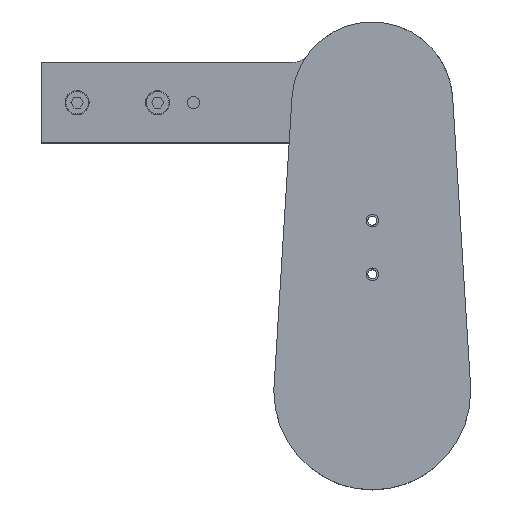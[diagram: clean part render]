
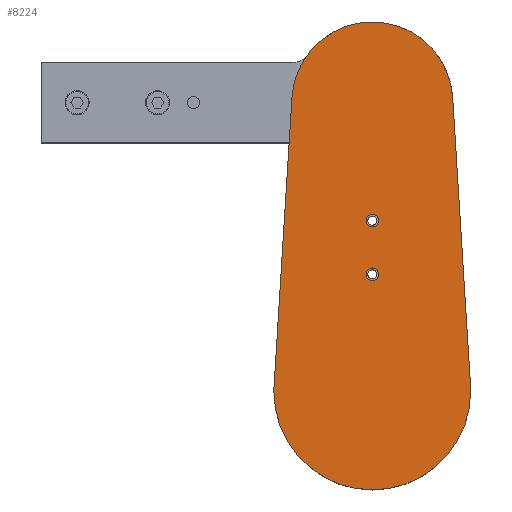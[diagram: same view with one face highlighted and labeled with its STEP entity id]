
A CAD part, top view. The second image highlights one B-rep face of the part: STEP entity #8224.
In plain terms, the highlighted planar face has unit normal (0, 0, 1).
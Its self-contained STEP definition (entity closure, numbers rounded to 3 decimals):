
#35 = DIRECTION ( 'NONE',  ( -1., 0., 0. ) ) ;
#238 = CARTESIAN_POINT ( 'NONE',  ( 129.608, 2.786, 29.355 ) ) ;
#259 = PLANE ( 'NONE',  #8715 ) ;
#352 = CIRCLE ( 'NONE', #9444, 3.5 ) ;
#428 = FACE_BOUND ( 'NONE', #5745, .T. ) ;
#565 = CARTESIAN_POINT ( 'NONE',  ( 174.522, -161.5, 29.355 ) ) ;
#721 = FACE_OUTER_BOUND ( 'NONE', #12221, .T. ) ;
#745 = CIRCLE ( 'NONE', #9623, 3.5 ) ;
#1082 = CARTESIAN_POINT ( 'NONE',  ( 171.022, -66., 29.355 ) ) ;
#1102 = CARTESIAN_POINT ( 'NONE',  ( 174.522, -161.5, 29.355 ) ) ;
#1227 = DIRECTION ( 'NONE',  ( -1., 0., 0. ) ) ;
#1306 = CARTESIAN_POINT ( 'NONE',  ( 229.416, -158.094, 29.355 ) ) ;
#1309 = VERTEX_POINT ( 'NONE', #11709 ) ;
#1321 = VERTEX_POINT ( 'NONE', #3178 ) ;
#1530 = DIRECTION ( 'NONE',  ( -1., 0., 0. ) ) ;
#1608 = ORIENTED_EDGE ( 'NONE', *, *, #12096, .F. ) ;
#1939 = EDGE_CURVE ( 'NONE', #10755, #7234, #745, .T. ) ;
#2007 = VERTEX_POINT ( 'NONE', #8052 ) ;
#2032 = DIRECTION ( 'NONE',  ( -1., 0., 0. ) ) ;
#2057 = ORIENTED_EDGE ( 'NONE', *, *, #9347, .F. ) ;
#2087 = AXIS2_PLACEMENT_3D ( 'NONE', #3708, #10310, #4654 ) ;
#2123 = LINE ( 'NONE', #6136, #4617 ) ;
#2153 = DIRECTION ( 'NONE',  ( 0., 0., 1. ) ) ;
#2742 = CARTESIAN_POINT ( 'NONE',  ( 171.022, -96., 29.355 ) ) ;
#2878 = ORIENTED_EDGE ( 'NONE', *, *, #6404, .F. ) ;
#3006 = ORIENTED_EDGE ( 'NONE', *, *, #1939, .F. ) ;
#3173 = CARTESIAN_POINT ( 'NONE',  ( 178.022, -66., 29.355 ) ) ;
#3178 = CARTESIAN_POINT ( 'NONE',  ( 229.522, -161.5, 29.355 ) ) ;
#3182 = DIRECTION ( 'NONE',  ( 0., 0., 1. ) ) ;
#3364 = ORIENTED_EDGE ( 'NONE', *, *, #12050, .F. ) ;
#3412 = VECTOR ( 'NONE', #3453, 1000. ) ;
#3453 = DIRECTION ( 'NONE',  ( 0.062, 0.998, 0. ) ) ;
#3708 = CARTESIAN_POINT ( 'NONE',  ( 174.522, -66., 29.355 ) ) ;
#3963 = EDGE_CURVE ( 'NONE', #9224, #8456, #7745, .T. ) ;
#4015 = CIRCLE ( 'NONE', #8075, 55. ) ;
#4419 = EDGE_CURVE ( 'NONE', #11503, #5276, #2123, .T. ) ;
#4529 = CARTESIAN_POINT ( 'NONE',  ( 219.435, 2.786, 29.355 ) ) ;
#4617 = VECTOR ( 'NONE', #9898, 1000. ) ;
#4654 = DIRECTION ( 'NONE',  ( -1., 0., 0. ) ) ;
#4792 = DIRECTION ( 'NONE',  ( 0., 0., -1. ) ) ;
#5014 = CIRCLE ( 'NONE', #5871, 45. ) ;
#5173 = DIRECTION ( 'NONE',  ( 0., 0., 1. ) ) ;
#5194 = AXIS2_PLACEMENT_3D ( 'NONE', #7793, #2153, #8748 ) ;
#5276 = VERTEX_POINT ( 'NONE', #1306 ) ;
#5632 = EDGE_CURVE ( 'NONE', #1321, #1309, #11704, .T. ) ;
#5688 = DIRECTION ( 'NONE',  ( 0., 0., -1. ) ) ;
#5745 = EDGE_LOOP ( 'NONE', ( #3364, #3006 ) ) ;
#5852 = CARTESIAN_POINT ( 'NONE',  ( 178.022, -96., 29.355 ) ) ;
#5871 = AXIS2_PLACEMENT_3D ( 'NONE', #11323, #5688, #35 ) ;
#6136 = CARTESIAN_POINT ( 'NONE',  ( 219.435, 2.786, 29.355 ) ) ;
#6159 = EDGE_CURVE ( 'NONE', #1309, #2007, #9192, .T. ) ;
#6404 = EDGE_CURVE ( 'NONE', #5276, #1321, #4015, .T. ) ;
#6431 = EDGE_CURVE ( 'NONE', #2007, #9202, #11535, .T. ) ;
#6861 = DIRECTION ( 'NONE',  ( 0., 0., -1. ) ) ;
#7046 = AXIS2_PLACEMENT_3D ( 'NONE', #10445, #4792, #11381 ) ;
#7136 = ORIENTED_EDGE ( 'NONE', *, *, #6159, .F. ) ;
#7171 = DIRECTION ( 'NONE',  ( 0., 0., -1. ) ) ;
#7234 = VERTEX_POINT ( 'NONE', #1082 ) ;
#7680 = DIRECTION ( 'NONE',  ( 0., 0., -1. ) ) ;
#7745 = CIRCLE ( 'NONE', #5194, 3.5 ) ;
#7793 = CARTESIAN_POINT ( 'NONE',  ( 174.522, -96., 29.355 ) ) ;
#7833 = CIRCLE ( 'NONE', #2087, 3.5 ) ;
#7955 = FACE_BOUND ( 'NONE', #10915, .T. ) ;
#8052 = CARTESIAN_POINT ( 'NONE',  ( 119.627, -158.094, 29.355 ) ) ;
#8075 = AXIS2_PLACEMENT_3D ( 'NONE', #565, #7171, #1530 ) ;
#8078 = ORIENTED_EDGE ( 'NONE', *, *, #5632, .F. ) ;
#8224 = ADVANCED_FACE ( 'NONE', ( #428, #7955, #721 ), #259, .F. ) ;
#8456 = VERTEX_POINT ( 'NONE', #2742 ) ;
#8715 = AXIS2_PLACEMENT_3D ( 'NONE', #8722, #6861, #1227 ) ;
#8722 = CARTESIAN_POINT ( 'NONE',  ( 174.522, 0., 29.355 ) ) ;
#8748 = DIRECTION ( 'NONE',  ( -1., 0., 0. ) ) ;
#8827 = CARTESIAN_POINT ( 'NONE',  ( 174.522, -66., 29.355 ) ) ;
#9105 = CARTESIAN_POINT ( 'NONE',  ( 129.608, 2.786, 29.355 ) ) ;
#9192 = CIRCLE ( 'NONE', #7046, 55. ) ;
#9202 = VERTEX_POINT ( 'NONE', #238 ) ;
#9224 = VERTEX_POINT ( 'NONE', #5852 ) ;
#9347 = EDGE_CURVE ( 'NONE', #8456, #9224, #352, .T. ) ;
#9444 = AXIS2_PLACEMENT_3D ( 'NONE', #10851, #5173, #11761 ) ;
#9623 = AXIS2_PLACEMENT_3D ( 'NONE', #8827, #3182, #9798 ) ;
#9798 = DIRECTION ( 'NONE',  ( -1., 0., 0. ) ) ;
#9898 = DIRECTION ( 'NONE',  ( 0.062, -0.998, 0. ) ) ;
#9939 = ORIENTED_EDGE ( 'NONE', *, *, #6431, .F. ) ;
#10071 = AXIS2_PLACEMENT_3D ( 'NONE', #1102, #7680, #2032 ) ;
#10310 = DIRECTION ( 'NONE',  ( 0., 0., 1. ) ) ;
#10433 = ORIENTED_EDGE ( 'NONE', *, *, #4419, .F. ) ;
#10445 = CARTESIAN_POINT ( 'NONE',  ( 174.522, -161.5, 29.355 ) ) ;
#10755 = VERTEX_POINT ( 'NONE', #3173 ) ;
#10851 = CARTESIAN_POINT ( 'NONE',  ( 174.522, -96., 29.355 ) ) ;
#10915 = EDGE_LOOP ( 'NONE', ( #2057, #11816 ) ) ;
#11323 = CARTESIAN_POINT ( 'NONE',  ( 174.522, 0., 29.355 ) ) ;
#11381 = DIRECTION ( 'NONE',  ( -1., 0., 0. ) ) ;
#11503 = VERTEX_POINT ( 'NONE', #4529 ) ;
#11535 = LINE ( 'NONE', #9105, #3412 ) ;
#11704 = CIRCLE ( 'NONE', #10071, 55. ) ;
#11709 = CARTESIAN_POINT ( 'NONE',  ( 119.522, -161.5, 29.355 ) ) ;
#11761 = DIRECTION ( 'NONE',  ( -1., 0., 0. ) ) ;
#11816 = ORIENTED_EDGE ( 'NONE', *, *, #3963, .F. ) ;
#12050 = EDGE_CURVE ( 'NONE', #7234, #10755, #7833, .T. ) ;
#12096 = EDGE_CURVE ( 'NONE', #9202, #11503, #5014, .T. ) ;
#12221 = EDGE_LOOP ( 'NONE', ( #1608, #9939, #7136, #8078, #2878, #10433 ) ) ;
